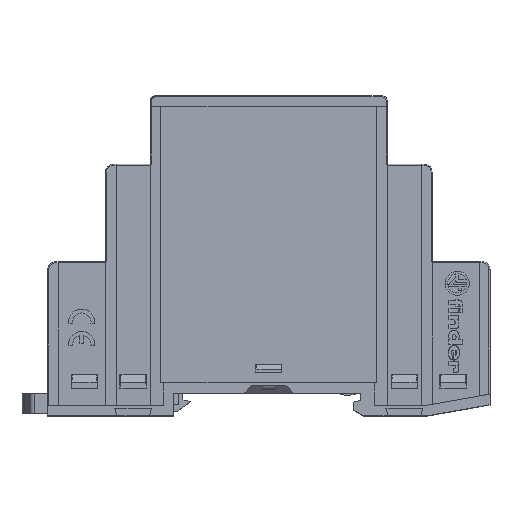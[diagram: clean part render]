
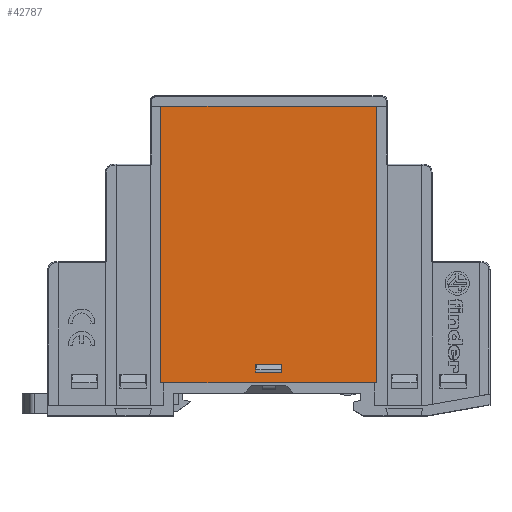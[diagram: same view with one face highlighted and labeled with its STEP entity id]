
A CAD part, top view. The second image highlights one B-rep face of the part: STEP entity #42787.
In plain terms, the highlighted planar face has unit normal (0, 0, 1).
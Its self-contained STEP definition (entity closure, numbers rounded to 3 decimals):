
#4987=ORIENTED_EDGE('',*,*,#14661,.T.);
#4988=ORIENTED_EDGE('',*,*,#14662,.F.);
#4989=ORIENTED_EDGE('',*,*,#14663,.F.);
#4990=ORIENTED_EDGE('',*,*,#14664,.F.);
#4991=ORIENTED_EDGE('',*,*,#14658,.T.);
#4992=ORIENTED_EDGE('',*,*,#14665,.F.);
#4993=ORIENTED_EDGE('',*,*,#14666,.F.);
#4994=ORIENTED_EDGE('',*,*,#14667,.F.);
#14658=EDGE_CURVE('',#20621,#20620,#26143,.T.);
#14661=EDGE_CURVE('',#20623,#20624,#26146,.T.);
#14662=EDGE_CURVE('',#20625,#20624,#26147,.T.);
#14663=EDGE_CURVE('',#20626,#20625,#26148,.T.);
#14664=EDGE_CURVE('',#20623,#20626,#26149,.T.);
#14665=EDGE_CURVE('',#20627,#20620,#26150,.T.);
#14666=EDGE_CURVE('',#20628,#20627,#26151,.T.);
#14667=EDGE_CURVE('',#20621,#20628,#26152,.T.);
#20620=VERTEX_POINT('',#64523);
#20621=VERTEX_POINT('',#64525);
#20623=VERTEX_POINT('',#64531);
#20624=VERTEX_POINT('',#64532);
#20625=VERTEX_POINT('',#64534);
#20626=VERTEX_POINT('',#64536);
#20627=VERTEX_POINT('',#64539);
#20628=VERTEX_POINT('',#64541);
#26143=LINE('',#64524,#32170);
#26146=LINE('',#64530,#32173);
#26147=LINE('',#64533,#32174);
#26148=LINE('',#64535,#32175);
#26149=LINE('',#64537,#32176);
#26150=LINE('',#64538,#32177);
#26151=LINE('',#64540,#32178);
#26152=LINE('',#64542,#32179);
#32170=VECTOR('',#51843,1000.);
#32173=VECTOR('',#51848,1000.);
#32174=VECTOR('',#51849,1000.);
#32175=VECTOR('',#51850,1000.);
#32176=VECTOR('',#51851,1000.);
#32177=VECTOR('',#51852,1000.);
#32178=VECTOR('',#51853,1000.);
#32179=VECTOR('',#51854,1000.);
#36785=EDGE_LOOP('',(#4987,#4988,#4989,#4990));
#36786=EDGE_LOOP('',(#4991,#4992,#4993,#4994));
#38924=FACE_BOUND('',#36785,.T.);
#38925=FACE_BOUND('',#36786,.T.);
#40950=PLANE('',#45861);
#42787=ADVANCED_FACE('',(#38924,#38925),#40950,.T.);
#45861=AXIS2_PLACEMENT_3D('',#64529,#51846,#51847);
#51843=DIRECTION('',(0.,-1.,0.));
#51846=DIRECTION('',(0.,0.,1.));
#51847=DIRECTION('',(0.,1.,0.));
#51848=DIRECTION('',(0.,-1.,0.));
#51849=DIRECTION('',(1.,0.,0.));
#51850=DIRECTION('',(0.,-1.,0.));
#51851=DIRECTION('',(-1.,0.,0.));
#51852=DIRECTION('',(-1.,0.,0.));
#51853=DIRECTION('',(0.,-1.,0.));
#51854=DIRECTION('',(1.,0.,0.));
#64523=CARTESIAN_POINT('',(-20.5,-47.,0.));
#64524=CARTESIAN_POINT('',(-20.5,5.5,0.));
#64525=CARTESIAN_POINT('',(-20.5,5.5,0.));
#64529=CARTESIAN_POINT('',(-20.501,-47.001,0.));
#64530=CARTESIAN_POINT('',(2.5,-43.5,0.));
#64531=CARTESIAN_POINT('',(2.5,-43.5,0.));
#64532=CARTESIAN_POINT('',(2.5,-45.,0.));
#64533=CARTESIAN_POINT('',(-2.5,-45.,0.));
#64534=CARTESIAN_POINT('',(-2.5,-45.,0.));
#64535=CARTESIAN_POINT('',(-2.5,-43.5,0.));
#64536=CARTESIAN_POINT('',(-2.5,-43.5,0.));
#64537=CARTESIAN_POINT('',(2.5,-43.5,0.));
#64538=CARTESIAN_POINT('',(20.5,-47.,0.));
#64539=CARTESIAN_POINT('',(20.5,-47.,0.));
#64540=CARTESIAN_POINT('',(20.5,5.5,0.));
#64541=CARTESIAN_POINT('',(20.5,5.5,0.));
#64542=CARTESIAN_POINT('',(-20.5,5.5,0.));
